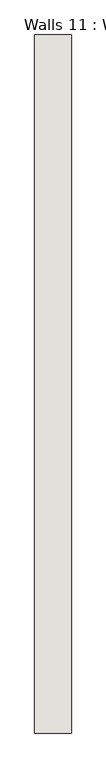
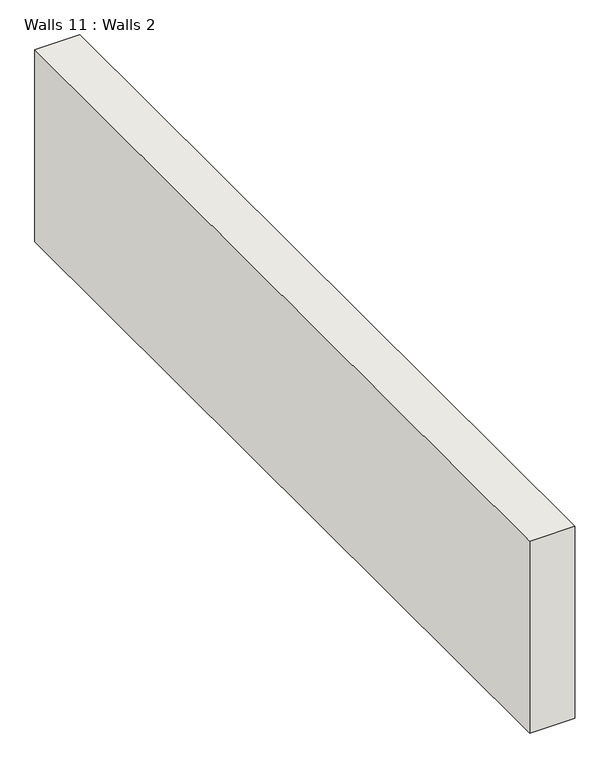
"""IFC4 building model written with IfcOpenShell, lengths in millimetres: wall geometry, Walls 11 : Walls 2."""

from ifc_helpers import new_model, si_unit, frame, origin, place, context, project, spatial, polyline, outline, extrude, source, transform, mapped, element, save


def walls_11_walls_2_229b7b54(model_context):
    return source(origin(), model_context, "Body", "SweptSolid", [
        extrude(outline(polyline([(7413.9835737, 6503.7823378), (7413.9835737, 7953.8293418), (7489.9887069, 7953.8293418), (7489.9887069, 6503.7823378), (7413.9835737, 6503.7823378)])), frame((0.0, 0.0, 330.1752743), z_axis=(0.0, 0.0, 1.0), x_axis=(1.0, 0.0, 0.0)), (0.0, 0.0, 1.0), 342.9504948),
    ])


if __name__ == "__main__":
    model = new_model("IFC4")
    model_context = context("Model", 3, world=origin())
    ifc_project = project(units=[si_unit("LENGTHUNIT", "METRE", prefix="MILLI")], contexts=[model_context])
    site = spatial("IfcSite", under=ifc_project)
    building = spatial("IfcBuilding", under=site)
    placement = place(None, origin())
    walls_11_walls_2_shape = walls_11_walls_2_229b7b54(model_context)
    element("IfcWall", 1, ObjectType="Walls 11 : Walls 2", at=placement, inside=building, context=model_context, shape_type="MappedRepresentation", body=[
        mapped(walls_11_walls_2_shape, transform((0.0, 0.0, 0.0), x_axis=(1.0, 0.0, 0.0), y_axis=(0.0, 1.0, 0.0), z_axis=(0.0, 0.0, 1.0))),
    ])
    save(model, "model.ifc")
